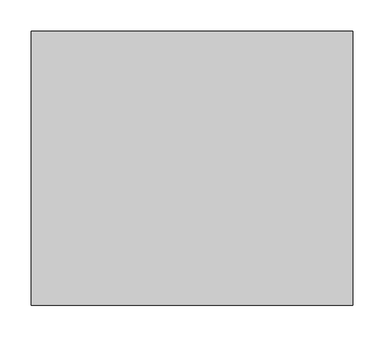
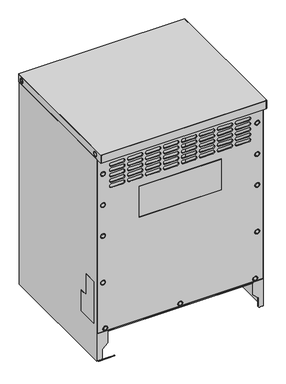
"""IFC4 building model written with IfcOpenShell, lengths in millimetres: proxy geometry, TRF2 - 480V-208Vor 120V_ Step_down_transformer_BIM_Model : TRF2 - 480V-208Vor 120V_ Step_down_transformer_BIM_Model."""

from ifc_helpers import new_model, si_unit, point, frame, frame_2d, origin, place, context, project, spatial, polyline, circle_curve, trimmed, segment, composite_curve, outline, extrude, source, transform, mapped, element, save


def electrical_equipment_2ad6ca1a(model_context):
    return source(origin(), model_context, "Body", "SweptSolid", [
        extrude(outline(polyline([(215.1, 659.7274313), (215.1, 0.0), (-198.6272785, 0.0), (-198.6272785, 659.7274313), (215.1, 659.7274313)]), holes=[polyline([(-141.7764926, 249.9415628), (-183.1332785, 249.9415628), (-183.1332785, 113.919), (-115.1556994, 113.919), (-115.1556994, 182.118), (-141.7764926, 182.118), (-141.7764926, 249.9415628)])]), frame((-256.844617, 0.0, 0.0), z_axis=(1.0, 0.0, 0.0), x_axis=(0.0, 1.0, 0.0)), (0.0, 0.0, 1.0), 2.044617),
        extrude(outline(polyline([(-142.2764926, 249.4415628), (-142.2764926, 181.618), (-115.6556994, 181.618), (-115.6556994, 114.419), (-182.6332785, 114.419), (-182.6332785, 249.4415628), (-142.2764926, 249.4415628)])), frame((-256.844617, 0.0, 0.0), z_axis=(1.0, 0.0, 0.0), x_axis=(0.0, 1.0, 0.0)), (0.0, 0.0, 1.0), 2.044617),
        extrude(outline(polyline([(656.4186497, -254.8), (91.7316252, -254.8), (91.7316252, 254.8), (656.4186497, 254.8), (656.4186497, -254.8)]), holes=[composite_curve([segment(trimmed(circle_curve(frame_2d((606.0796506, 238.8897385)), 7.2389997), [point((606.0796506, 246.1287382))], [point((606.0796506, 231.6507387))], True, "CARTESIAN"), True, "CONTINUOUS"), segment(trimmed(circle_curve(frame_2d((606.0796506, 238.8897385)), 7.2389997), [point((606.0796506, 231.6507387))], [point((606.0796506, 246.1287382))], True, "CARTESIAN"), True, "CONTINUOUS")], self_intersect=False), composite_curve([segment(trimmed(circle_curve(frame_2d((504.4796528, 238.8897385)), 7.2389997), [point((504.4796528, 246.1287382))], [point((504.4796528, 231.6507387))], True, "CARTESIAN"), True, "CONTINUOUS"), segment(trimmed(circle_curve(frame_2d((504.4796528, 238.8897385)), 7.2389997), [point((504.4796528, 231.6507387))], [point((504.4796528, 246.1287382))], True, "CARTESIAN"), True, "CONTINUOUS")], self_intersect=False), composite_curve([segment(trimmed(circle_curve(frame_2d((402.8816252, 238.8897385)), 7.2389997), [point((402.8816252, 246.1287382))], [point((402.8816252, 231.6507387))], True, "CARTESIAN"), True, "CONTINUOUS"), segment(trimmed(circle_curve(frame_2d((402.8816252, 238.8897385)), 7.2389997), [point((402.8816252, 231.6507387))], [point((402.8816252, 246.1287382))], True, "CARTESIAN"), True, "CONTINUOUS")], self_intersect=False), composite_curve([segment(trimmed(circle_curve(frame_2d((250.4816252, 238.8897385)), 7.2389997), [point((250.4816252, 246.1287382))], [point((250.4816252, 231.6507387))], True, "CARTESIAN"), True, "CONTINUOUS"), segment(trimmed(circle_curve(frame_2d((250.4816252, 238.8897385)), 7.2389997), [point((250.4816252, 231.6507387))], [point((250.4816252, 246.1287382))], True, "CARTESIAN"), True, "CONTINUOUS")], self_intersect=False), composite_curve([segment(trimmed(circle_curve(frame_2d((99.2737842, 231.672699)), 7.2389997), [point((99.2737842, 238.9116987))], [point((99.2737842, 224.4336993))], True, "CARTESIAN"), True, "CONTINUOUS"), segment(trimmed(circle_curve(frame_2d((99.2737842, 231.672699)), 7.2389997), [point((99.2737842, 224.4336993))], [point((99.2737842, 238.9116987))], True, "CARTESIAN"), True, "CONTINUOUS")], self_intersect=False), composite_curve([segment(trimmed(circle_curve(frame_2d((99.2737842, -0.1229129)), 7.2389997), [point((99.2737842, 7.1160868))], [point((99.2737842, -7.3619126))], True, "CARTESIAN"), True, "CONTINUOUS"), segment(trimmed(circle_curve(frame_2d((99.2737842, -0.1229129)), 7.2389997), [point((99.2737842, -7.3619126))], [point((99.2737842, 7.1160868))], True, "CARTESIAN"), True, "CONTINUOUS")], self_intersect=False), composite_curve([segment(trimmed(circle_curve(frame_2d((99.2737842, -231.8513771)), 7.2389997), [point((99.2737842, -224.6123773))], [point((99.2737842, -239.0903768))], True, "CARTESIAN"), True, "CONTINUOUS"), segment(trimmed(circle_curve(frame_2d((99.2737842, -231.8513771)), 7.2389997), [point((99.2737842, -239.0903768))], [point((99.2737842, -224.6123773))], True, "CARTESIAN"), True, "CONTINUOUS")], self_intersect=False), composite_curve([segment(trimmed(circle_curve(frame_2d((606.0796506, -238.8897385)), 7.2389997), [point((606.0796506, -246.1287382))], [point((606.0796506, -231.6507387))], True, "CARTESIAN"), True, "CONTINUOUS"), segment(trimmed(circle_curve(frame_2d((606.0796506, -238.8897385)), 7.2389997), [point((606.0796506, -231.6507387))], [point((606.0796506, -246.1287382))], True, "CARTESIAN"), True, "CONTINUOUS")], self_intersect=False), composite_curve([segment(trimmed(circle_curve(frame_2d((504.4796528, -238.8897385)), 7.2389997), [point((504.4796528, -246.1287382))], [point((504.4796528, -231.6507387))], True, "CARTESIAN"), True, "CONTINUOUS"), segment(trimmed(circle_curve(frame_2d((504.4796528, -238.8897385)), 7.2389997), [point((504.4796528, -231.6507387))], [point((504.4796528, -246.1287382))], True, "CARTESIAN"), True, "CONTINUOUS")], self_intersect=False), composite_curve([segment(trimmed(circle_curve(frame_2d((402.8816252, -238.8897385)), 7.2389997), [point((402.8816252, -246.1287382))], [point((402.8816252, -231.6507387))], True, "CARTESIAN"), True, "CONTINUOUS"), segment(trimmed(circle_curve(frame_2d((402.8816252, -238.8897385)), 7.2389997), [point((402.8816252, -231.6507387))], [point((402.8816252, -246.1287382))], True, "CARTESIAN"), True, "CONTINUOUS")], self_intersect=False), composite_curve([segment(trimmed(circle_curve(frame_2d((250.4816252, -238.8897385)), 7.2389997), [point((250.4816252, -246.1287382))], [point((250.4816252, -231.6507387))], True, "CARTESIAN"), True, "CONTINUOUS"), segment(trimmed(circle_curve(frame_2d((250.4816252, -238.8897385)), 7.2389997), [point((250.4816252, -231.6507387))], [point((250.4816252, -246.1287382))], True, "CARTESIAN"), True, "CONTINUOUS")], self_intersect=False)]), frame((0.0, 215.1, 0.0), z_axis=(0.0, 1.0, 0.0), x_axis=(0.0, 0.0, 1.0)), (0.0, 0.0, 1.0), 3.0),
        extrude(outline(polyline([(608.8292787, 234.1272428), (603.3300224, 234.1272428), (600.5803942, 238.8897385), (603.3300224, 243.6522341), (608.8292787, 243.6522341), (611.5789069, 238.8897385), (608.8292787, 234.1272428)])), frame((0.0, 215.1, 0.0), z_axis=(0.0, 1.0, 0.0), x_axis=(0.0, 0.0, 1.0)), (0.0, 0.0, 1.0), 3.0),
        extrude(outline(polyline([(507.229281, 234.1272428), (501.7300246, 234.1272428), (498.9803964, 238.8897385), (501.7300246, 243.6522341), (507.229281, 243.6522341), (509.9789091, 238.8897385), (507.229281, 234.1272428)])), frame((0.0, 215.1, 0.0), z_axis=(0.0, 1.0, 0.0), x_axis=(0.0, 0.0, 1.0)), (0.0, 0.0, 1.0), 3.0),
        extrude(outline(polyline([(405.6312534, 234.1272428), (400.1319971, 234.1272428), (397.3823689, 238.8897385), (400.1319971, 243.6522341), (405.6312534, 243.6522341), (408.3808816, 238.8897385), (405.6312534, 234.1272428)])), frame((0.0, 215.1, 0.0), z_axis=(0.0, 1.0, 0.0), x_axis=(0.0, 0.0, 1.0)), (0.0, 0.0, 1.0), 3.0),
        extrude(outline(polyline([(253.2312534, 234.1272428), (247.7319971, 234.1272428), (244.9823689, 238.8897385), (247.7319971, 243.6522341), (253.2312534, 243.6522341), (255.9808816, 238.8897385), (253.2312534, 234.1272428)])), frame((0.0, 215.1, 0.0), z_axis=(0.0, 1.0, 0.0), x_axis=(0.0, 0.0, 1.0)), (0.0, 0.0, 1.0), 3.0),
        extrude(outline(polyline([(101.904067, 226.703491), (96.6435015, 226.703491), (93.7745279, 231.672699), (96.524156, 236.4351947), (102.0234124, 236.4351947), (104.7730406, 231.672699), (101.904067, 226.703491)])), frame((0.0, 215.1, 0.0), z_axis=(0.0, 1.0, 0.0), x_axis=(0.0, 0.0, 1.0)), (0.0, 0.0, 1.0), 3.0),
        extrude(outline(polyline([(102.0234124, -4.8854086), (96.524156, -4.8854086), (93.7745279, -0.1229129), (96.524156, 4.6395828), (102.0234124, 4.6395828), (104.7730406, -0.1229129), (102.0234124, -4.8854086)])), frame((0.0, 215.1, 0.0), z_axis=(0.0, 1.0, 0.0), x_axis=(0.0, 0.0, 1.0)), (0.0, 0.0, 1.0), 3.0),
        extrude(outline(polyline([(102.0234124, -236.6138727), (96.524156, -236.6138727), (93.7745279, -231.8513771), (96.524156, -227.0888814), (102.0234124, -227.0888814), (104.7730406, -231.8513771), (102.0234124, -236.6138727)])), frame((0.0, 215.1, 0.0), z_axis=(0.0, 1.0, 0.0), x_axis=(0.0, 0.0, 1.0)), (0.0, 0.0, 1.0), 3.0),
        extrude(outline(polyline([(608.8292787, -234.1272428), (611.5789069, -238.8897385), (608.8292787, -243.6522341), (603.3300224, -243.6522341), (600.5803942, -238.8897385), (603.3300224, -234.1272428), (608.8292787, -234.1272428)])), frame((0.0, 215.1, 0.0), z_axis=(0.0, 1.0, 0.0), x_axis=(0.0, 0.0, 1.0)), (0.0, 0.0, 1.0), 3.0),
        extrude(outline(polyline([(507.229281, -234.1272428), (509.9789091, -238.8897385), (507.229281, -243.6522341), (501.7300246, -243.6522341), (498.9803964, -238.8897385), (501.7300246, -234.1272428), (507.229281, -234.1272428)])), frame((0.0, 215.1, 0.0), z_axis=(0.0, 1.0, 0.0), x_axis=(0.0, 0.0, 1.0)), (0.0, 0.0, 1.0), 3.0),
        extrude(outline(polyline([(405.6312534, -234.1272428), (408.3808816, -238.8897385), (405.6312534, -243.6522341), (400.1319971, -243.6522341), (397.3823689, -238.8897385), (400.1319971, -234.1272428), (405.6312534, -234.1272428)])), frame((0.0, 215.1, 0.0), z_axis=(0.0, 1.0, 0.0), x_axis=(0.0, 0.0, 1.0)), (0.0, 0.0, 1.0), 3.0),
        extrude(outline(polyline([(253.2312534, -234.1272428), (255.9808816, -238.8897385), (253.2312534, -243.6522341), (247.7319971, -243.6522341), (244.9823689, -238.8897385), (247.7319971, -234.1272428), (253.2312534, -234.1272428)])), frame((0.0, 215.1, 0.0), z_axis=(0.0, 1.0, 0.0), x_axis=(0.0, 0.0, 1.0)), (0.0, 0.0, 1.0), 3.0),
        extrude(outline(polyline([(256.844617, 218.919523), (256.844617, -219.080477), (-256.844617, -219.080477), (-256.844617, 218.919523), (256.844617, 218.919523)])), frame((0.0, 0.0, 683.6767855), z_axis=(0.0, 0.0, 1.0), x_axis=(1.0, 0.0, 0.0)), (0.0, 0.0, 1.0), 1.3232145),
        extrude(outline(polyline([(254.8, -219.080477), (-254.8, -219.080477), (-254.8, -218.1325973), (254.8, -218.1325973), (254.8, -219.080477)])), frame((0.0, 0.0, 657.3896252), z_axis=(0.0, 0.0, 1.0), x_axis=(1.0, 0.0, 0.0)), (0.0, 0.0, 1.0), 26.2871603),
        extrude(outline(polyline([(219.080477, 683.8552069), (219.080477, 658.0609045), (-219.080477, 658.0609045), (-219.080477, 683.8552069), (219.080477, 683.8552069)]), holes=[composite_curve([segment(trimmed(circle_curve(frame_2d((-190.1817744, 670.8123696)), 7.2409723), [point((-197.4227467, 670.8123696))], [point((-182.9408021, 670.8123696))], True, "CARTESIAN"), True, "CONTINUOUS"), segment(trimmed(circle_curve(frame_2d((-190.1817744, 670.8123696)), 7.2409723), [point((-182.9408021, 670.8123696))], [point((-197.4227467, 670.8123696))], True, "CARTESIAN"), True, "CONTINUOUS")], self_intersect=False), composite_curve([segment(trimmed(circle_curve(frame_2d((203.5256798, 670.8123696)), 7.2409723), [point((196.2847075, 670.8123696))], [point((210.7666521, 670.8123696))], True, "CARTESIAN"), True, "CONTINUOUS"), segment(trimmed(circle_curve(frame_2d((203.5256798, 670.8123696)), 7.2409723), [point((210.7666521, 670.8123696))], [point((196.2847075, 670.8123696))], True, "CARTESIAN"), True, "CONTINUOUS")], self_intersect=False)]), frame((-256.844617, 0.0, 0.0), z_axis=(1.0, 0.0, 0.0), x_axis=(0.0, 1.0, 0.0)), (0.0, 0.0, 1.0), 2.044617),
        extrude(outline(polyline([(-194.9442742, 673.5619954), (-190.1817826, 676.3116213), (-185.419291, 673.5619954), (-185.419291, 668.0627438), (-190.1817826, 665.313118), (-194.9442742, 668.0627438), (-194.9442742, 673.5619954)])), frame((-256.844617, 0.0, 0.0), z_axis=(1.0, 0.0, 0.0), x_axis=(0.0, 1.0, 0.0)), (0.0, 0.0, 1.0), 2.044617),
        extrude(outline(polyline([(198.7631801, 673.5619954), (203.5256717, 676.3116213), (208.2881633, 673.5619954), (208.2881633, 668.0627438), (203.5256717, 665.313118), (198.7631801, 668.0627438), (198.7631801, 673.5619954)])), frame((-256.844617, 0.0, 0.0), z_axis=(1.0, 0.0, 0.0), x_axis=(0.0, 1.0, 0.0)), (0.0, 0.0, 1.0), 2.044617),
        extrude(outline(polyline([(215.1, 683.8552069), (215.1, 658.0609045), (-219.080477, 658.0609045), (-219.080477, 683.8552069), (215.1, 683.8552069)]), holes=[composite_curve([segment(trimmed(circle_curve(frame_2d((-190.1817744, 670.8123696)), 7.2409723), [point((-197.4227467, 670.8123696))], [point((-182.9408021, 670.8123696))], True, "CARTESIAN"), True, "CONTINUOUS"), segment(trimmed(circle_curve(frame_2d((-190.1817744, 670.8123696)), 7.2409723), [point((-182.9408021, 670.8123696))], [point((-197.4227467, 670.8123696))], True, "CARTESIAN"), True, "CONTINUOUS")], self_intersect=False), composite_curve([segment(trimmed(circle_curve(frame_2d((203.5256798, 670.8123696)), 7.2409723), [point((196.2847075, 670.8123696))], [point((210.7666521, 670.8123696))], True, "CARTESIAN"), True, "CONTINUOUS"), segment(trimmed(circle_curve(frame_2d((203.5256798, 670.8123696)), 7.2409723), [point((210.7666521, 670.8123696))], [point((196.2847075, 670.8123696))], True, "CARTESIAN"), True, "CONTINUOUS")], self_intersect=False)]), frame((254.8, 0.0, 0.0), z_axis=(1.0, 0.0, 0.0), x_axis=(0.0, 1.0, 0.0)), (0.0, 0.0, 1.0), 2.044617),
        extrude(outline(polyline([(-194.9442742, 673.5619954), (-190.1817826, 676.3116213), (-185.419291, 673.5619954), (-185.419291, 668.0627438), (-190.1817826, 665.313118), (-194.9442742, 668.0627438), (-194.9442742, 673.5619954)])), frame((254.8, 0.0, 0.0), z_axis=(1.0, 0.0, 0.0), x_axis=(0.0, 1.0, 0.0)), (0.0, 0.0, 1.0), 2.044617),
        extrude(outline(polyline([(198.7631801, 673.5619954), (203.5256717, 676.3116213), (208.2881633, 673.5619954), (208.2881633, 668.0627438), (203.5256717, 665.313118), (198.7631801, 668.0627438), (198.7631801, 673.5619954)])), frame((254.8, 0.0, 0.0), z_axis=(1.0, 0.0, 0.0), x_axis=(0.0, 1.0, 0.0)), (0.0, 0.0, 1.0), 2.044617),
        extrude(outline(polyline([(211.9637215, 659.7274313), (211.9637215, 0.0), (-198.6272785, 0.0), (-198.6272785, 659.7274313), (211.9637215, 659.7274313)]), holes=[polyline([(-141.7764926, 249.9415628), (-183.1332785, 249.9415628), (-183.1332785, 113.919), (-115.1556994, 113.919), (-115.1556994, 182.118), (-141.7764926, 182.118), (-141.7764926, 249.9415628)])]), frame((254.8, 0.0, 0.0), z_axis=(1.0, 0.0, 0.0), x_axis=(0.0, 1.0, 0.0)), (0.0, 0.0, 1.0), 2.044617),
        extrude(outline(polyline([(-182.6332785, 114.419), (-182.6332785, 249.4415628), (-142.2764926, 249.4415628), (-142.2764926, 181.618), (-115.6556994, 181.618), (-115.6556994, 114.419), (-182.6332785, 114.419)])), frame((254.8, 0.0, 0.0), z_axis=(1.0, 0.0, 0.0), x_axis=(0.0, 1.0, 0.0)), (0.0, 0.0, 1.0), 2.044617),
        extrude(outline(polyline([(657.3896252, 254.8), (657.3896252, -254.8), (91.7316252, -254.8), (91.7316252, 254.8), (657.3896252, 254.8)]), holes=[composite_curve([segment(trimmed(circle_curve(frame_2d((628.1796252, -176.8983)), 5.5499), [point((633.7295252, -176.8983))], [point((622.6297252, -176.8983))], True, "CARTESIAN"), True, "CONTINUOUS"), segment(polyline([(622.6297252, -176.8983), (622.6297252, -212.6107)]), True, "CONTINUOUS"), segment(trimmed(circle_curve(frame_2d((628.1796252, -212.6107)), 5.5499), [point((622.6297252, -212.6107))], [point((633.7295252, -212.6107))], True, "CARTESIAN"), True, "CONTINUOUS"), segment(polyline([(633.7295252, -212.6107), (633.7295252, -176.8983)]), True, "CONTINUOUS")], self_intersect=False), composite_curve([segment(trimmed(circle_curve(frame_2d((628.1796252, -121.3993)), 5.5499), [point((633.7295252, -121.3993))], [point((622.6297252, -121.3993))], True, "CARTESIAN"), True, "CONTINUOUS"), segment(polyline([(622.6297252, -121.3993), (622.6297252, -157.1117)]), True, "CONTINUOUS"), segment(trimmed(circle_curve(frame_2d((628.1796252, -157.1117)), 5.5499), [point((622.6297252, -157.1117))], [point((633.7295252, -157.1117))], True, "CARTESIAN"), True, "CONTINUOUS"), segment(polyline([(633.7295252, -157.1117), (633.7295252, -121.3993)]), True, "CONTINUOUS")], self_intersect=False), composite_curve([segment(trimmed(circle_curve(frame_2d((610.7298252, -176.8983)), 5.5499), [point((616.2797252, -176.8983))], [point((605.1799252, -176.8983))], True, "CARTESIAN"), True, "CONTINUOUS"), segment(polyline([(605.1799252, -176.8983), (605.1799252, -212.6107)]), True, "CONTINUOUS"), segment(trimmed(circle_curve(frame_2d((610.7298252, -212.6107)), 5.5499), [point((605.1799252, -212.6107))], [point((616.2797252, -212.6107))], True, "CARTESIAN"), True, "CONTINUOUS"), segment(polyline([(616.2797252, -212.6107), (616.2797252, -176.8983)]), True, "CONTINUOUS")], self_intersect=False), composite_curve([segment(trimmed(circle_curve(frame_2d((610.7298252, -121.3993)), 5.5499), [point((616.2797252, -121.3993))], [point((605.1799252, -121.3993))], True, "CARTESIAN"), True, "CONTINUOUS"), segment(polyline([(605.1799252, -121.3993), (605.1799252, -157.1117)]), True, "CONTINUOUS"), segment(trimmed(circle_curve(frame_2d((610.7298252, -157.1117)), 5.5499), [point((605.1799252, -157.1117))], [point((616.2797252, -157.1117))], True, "CARTESIAN"), True, "CONTINUOUS"), segment(polyline([(616.2797252, -157.1117), (616.2797252, -121.3993)]), True, "CONTINUOUS")], self_intersect=False), composite_curve([segment(trimmed(circle_curve(frame_2d((593.2800252, -176.8983)), 5.5499), [point((598.8299252, -176.8983))], [point((587.7301252, -176.8983))], True, "CARTESIAN"), True, "CONTINUOUS"), segment(polyline([(587.7301252, -176.8983), (587.7301252, -212.6107)]), True, "CONTINUOUS"), segment(trimmed(circle_curve(frame_2d((593.2800252, -212.6107)), 5.5499), [point((587.7301252, -212.6107))], [point((598.8299252, -212.6107))], True, "CARTESIAN"), True, "CONTINUOUS"), segment(polyline([(598.8299252, -212.6107), (598.8299252, -176.8983)]), True, "CONTINUOUS")], self_intersect=False), composite_curve([segment(trimmed(circle_curve(frame_2d((593.2800252, -121.3993)), 5.5499), [point((598.8299252, -121.3993))], [point((587.7301252, -121.3993))], True, "CARTESIAN"), True, "CONTINUOUS"), segment(polyline([(587.7301252, -121.3993), (587.7301252, -157.1117)]), True, "CONTINUOUS"), segment(trimmed(circle_curve(frame_2d((593.2800252, -157.1117)), 5.5499), [point((587.7301252, -157.1117))], [point((598.8299252, -157.1117))], True, "CARTESIAN"), True, "CONTINUOUS"), segment(polyline([(598.8299252, -157.1117), (598.8299252, -121.3993)]), True, "CONTINUOUS")], self_intersect=False), composite_curve([segment(trimmed(circle_curve(frame_2d((575.8302252, -176.8983)), 5.5499), [point((581.3801252, -176.8983))], [point((570.2803252, -176.8983))], True, "CARTESIAN"), True, "CONTINUOUS"), segment(polyline([(570.2803252, -176.8983), (570.2803252, -212.6107)]), True, "CONTINUOUS"), segment(trimmed(circle_curve(frame_2d((575.8302252, -212.6107)), 5.5499), [point((570.2803252, -212.6107))], [point((581.3801252, -212.6107))], True, "CARTESIAN"), True, "CONTINUOUS"), segment(polyline([(581.3801252, -212.6107), (581.3801252, -176.8983)]), True, "CONTINUOUS")], self_intersect=False), composite_curve([segment(trimmed(circle_curve(frame_2d((575.8302252, -121.3993)), 5.5499), [point((581.3801252, -121.3993))], [point((570.2803252, -121.3993))], True, "CARTESIAN"), True, "CONTINUOUS"), segment(polyline([(570.2803252, -121.3993), (570.2803252, -157.1117)]), True, "CONTINUOUS"), segment(trimmed(circle_curve(frame_2d((575.8302252, -157.1117)), 5.5499), [point((570.2803252, -157.1117))], [point((581.3801252, -157.1117))], True, "CARTESIAN"), True, "CONTINUOUS"), segment(polyline([(581.3801252, -157.1117), (581.3801252, -121.3993)]), True, "CONTINUOUS")], self_intersect=False), composite_curve([segment(trimmed(circle_curve(frame_2d((558.3804252, -176.8983)), 5.5499), [point((563.9303252, -176.8983))], [point((552.8305252, -176.8983))], True, "CARTESIAN"), True, "CONTINUOUS"), segment(polyline([(552.8305252, -176.8983), (552.8305252, -212.6107)]), True, "CONTINUOUS"), segment(trimmed(circle_curve(frame_2d((558.3804252, -212.6107)), 5.5499), [point((552.8305252, -212.6107))], [point((563.9303252, -212.6107))], True, "CARTESIAN"), True, "CONTINUOUS"), segment(polyline([(563.9303252, -212.6107), (563.9303252, -176.8983)]), True, "CONTINUOUS")], self_intersect=False), composite_curve([segment(trimmed(circle_curve(frame_2d((558.3804252, -121.3993)), 5.5499), [point((563.9303252, -121.3993))], [point((552.8305252, -121.3993))], True, "CARTESIAN"), True, "CONTINUOUS"), segment(polyline([(552.8305252, -121.3993), (552.8305252, -157.1117)]), True, "CONTINUOUS"), segment(trimmed(circle_curve(frame_2d((558.3804252, -157.1117)), 5.5499), [point((552.8305252, -157.1117))], [point((563.9303252, -157.1117))], True, "CARTESIAN"), True, "CONTINUOUS"), segment(polyline([(563.9303252, -157.1117), (563.9303252, -121.3993)]), True, "CONTINUOUS")], self_intersect=False), composite_curve([segment(trimmed(circle_curve(frame_2d((628.1796252, -65.9003)), 5.5499), [point((633.7295252, -65.9003))], [point((622.6297252, -65.9003))], True, "CARTESIAN"), True, "CONTINUOUS"), segment(polyline([(622.6297252, -65.9003), (622.6297252, -101.6127)]), True, "CONTINUOUS"), segment(trimmed(circle_curve(frame_2d((628.1796252, -101.6127)), 5.5499), [point((622.6297252, -101.6127))], [point((633.7295252, -101.6127))], True, "CARTESIAN"), True, "CONTINUOUS"), segment(polyline([(633.7295252, -101.6127), (633.7295252, -65.9003)]), True, "CONTINUOUS")], self_intersect=False), composite_curve([segment(trimmed(circle_curve(frame_2d((628.1796252, -10.4013)), 5.5499), [point((633.7295252, -10.4013))], [point((622.6297252, -10.4013))], True, "CARTESIAN"), True, "CONTINUOUS"), segment(polyline([(622.6297252, -10.4013), (622.6297252, -46.1137)]), True, "CONTINUOUS"), segment(trimmed(circle_curve(frame_2d((628.1796252, -46.1137)), 5.5499), [point((622.6297252, -46.1137))], [point((633.7295252, -46.1137))], True, "CARTESIAN"), True, "CONTINUOUS"), segment(polyline([(633.7295252, -46.1137), (633.7295252, -10.4013)]), True, "CONTINUOUS")], self_intersect=False), composite_curve([segment(trimmed(circle_curve(frame_2d((610.7298252, -65.9003)), 5.5499), [point((616.2797252, -65.9003))], [point((605.1799252, -65.9003))], True, "CARTESIAN"), True, "CONTINUOUS"), segment(polyline([(605.1799252, -65.9003), (605.1799252, -101.6127)]), True, "CONTINUOUS"), segment(trimmed(circle_curve(frame_2d((610.7298252, -101.6127)), 5.5499), [point((605.1799252, -101.6127))], [point((616.2797252, -101.6127))], True, "CARTESIAN"), True, "CONTINUOUS"), segment(polyline([(616.2797252, -101.6127), (616.2797252, -65.9003)]), True, "CONTINUOUS")], self_intersect=False), composite_curve([segment(trimmed(circle_curve(frame_2d((610.7298252, -10.4013)), 5.5499), [point((616.2797252, -10.4013))], [point((605.1799252, -10.4013))], True, "CARTESIAN"), True, "CONTINUOUS"), segment(polyline([(605.1799252, -10.4013), (605.1799252, -46.1137)]), True, "CONTINUOUS"), segment(trimmed(circle_curve(frame_2d((610.7298252, -46.1137)), 5.5499), [point((605.1799252, -46.1137))], [point((616.2797252, -46.1137))], True, "CARTESIAN"), True, "CONTINUOUS"), segment(polyline([(616.2797252, -46.1137), (616.2797252, -10.4013)]), True, "CONTINUOUS")], self_intersect=False), composite_curve([segment(trimmed(circle_curve(frame_2d((593.2800252, -65.9003)), 5.5499), [point((598.8299252, -65.9003))], [point((587.7301252, -65.9003))], True, "CARTESIAN"), True, "CONTINUOUS"), segment(polyline([(587.7301252, -65.9003), (587.7301252, -101.6127)]), True, "CONTINUOUS"), segment(trimmed(circle_curve(frame_2d((593.2800252, -101.6127)), 5.5499), [point((587.7301252, -101.6127))], [point((598.8299252, -101.6127))], True, "CARTESIAN"), True, "CONTINUOUS"), segment(polyline([(598.8299252, -101.6127), (598.8299252, -65.9003)]), True, "CONTINUOUS")], self_intersect=False), composite_curve([segment(trimmed(circle_curve(frame_2d((593.2800252, -10.4013)), 5.5499), [point((598.8299252, -10.4013))], [point((587.7301252, -10.4013))], True, "CARTESIAN"), True, "CONTINUOUS"), segment(polyline([(587.7301252, -10.4013), (587.7301252, -46.1137)]), True, "CONTINUOUS"), segment(trimmed(circle_curve(frame_2d((593.2800252, -46.1137)), 5.5499), [point((587.7301252, -46.1137))], [point((598.8299252, -46.1137))], True, "CARTESIAN"), True, "CONTINUOUS"), segment(polyline([(598.8299252, -46.1137), (598.8299252, -10.4013)]), True, "CONTINUOUS")], self_intersect=False), composite_curve([segment(trimmed(circle_curve(frame_2d((575.8302252, -65.9003)), 5.5499), [point((581.3801252, -65.9003))], [point((570.2803252, -65.9003))], True, "CARTESIAN"), True, "CONTINUOUS"), segment(polyline([(570.2803252, -65.9003), (570.2803252, -101.6127)]), True, "CONTINUOUS"), segment(trimmed(circle_curve(frame_2d((575.8302252, -101.6127)), 5.5499), [point((570.2803252, -101.6127))], [point((581.3801252, -101.6127))], True, "CARTESIAN"), True, "CONTINUOUS"), segment(polyline([(581.3801252, -101.6127), (581.3801252, -65.9003)]), True, "CONTINUOUS")], self_intersect=False), composite_curve([segment(trimmed(circle_curve(frame_2d((575.8302252, -10.4013)), 5.5499), [point((581.3801252, -10.4013))], [point((570.2803252, -10.4013))], True, "CARTESIAN"), True, "CONTINUOUS"), segment(polyline([(570.2803252, -10.4013), (570.2803252, -46.1137)]), True, "CONTINUOUS"), segment(trimmed(circle_curve(frame_2d((575.8302252, -46.1137)), 5.5499), [point((570.2803252, -46.1137))], [point((581.3801252, -46.1137))], True, "CARTESIAN"), True, "CONTINUOUS"), segment(polyline([(581.3801252, -46.1137), (581.3801252, -10.4013)]), True, "CONTINUOUS")], self_intersect=False), composite_curve([segment(trimmed(circle_curve(frame_2d((558.3804252, -65.9003)), 5.5499), [point((563.9303252, -65.9003))], [point((552.8305252, -65.9003))], True, "CARTESIAN"), True, "CONTINUOUS"), segment(polyline([(552.8305252, -65.9003), (552.8305252, -101.6127)]), True, "CONTINUOUS"), segment(trimmed(circle_curve(frame_2d((558.3804252, -101.6127)), 5.5499), [point((552.8305252, -101.6127))], [point((563.9303252, -101.6127))], True, "CARTESIAN"), True, "CONTINUOUS"), segment(polyline([(563.9303252, -101.6127), (563.9303252, -65.9003)]), True, "CONTINUOUS")], self_intersect=False), composite_curve([segment(trimmed(circle_curve(frame_2d((558.3804252, -10.4013)), 5.5499), [point((563.9303252, -10.4013))], [point((552.8305252, -10.4013))], True, "CARTESIAN"), True, "CONTINUOUS"), segment(polyline([(552.8305252, -10.4013), (552.8305252, -46.1137)]), True, "CONTINUOUS"), segment(trimmed(circle_curve(frame_2d((558.3804252, -46.1137)), 5.5499), [point((552.8305252, -46.1137))], [point((563.9303252, -46.1137))], True, "CARTESIAN"), True, "CONTINUOUS"), segment(polyline([(563.9303252, -46.1137), (563.9303252, -10.4013)]), True, "CONTINUOUS")], self_intersect=False), composite_curve([segment(trimmed(circle_curve(frame_2d((628.1796252, 45.0977)), 5.5499), [point((633.7295252, 45.0977))], [point((622.6297252, 45.0977))], True, "CARTESIAN"), True, "CONTINUOUS"), segment(polyline([(622.6297252, 45.0977), (622.6297252, 9.3853)]), True, "CONTINUOUS"), segment(trimmed(circle_curve(frame_2d((628.1796252, 9.3853)), 5.5499), [point((622.6297252, 9.3853))], [point((633.7295252, 9.3853))], True, "CARTESIAN"), True, "CONTINUOUS"), segment(polyline([(633.7295252, 9.3853), (633.7295252, 45.0977)]), True, "CONTINUOUS")], self_intersect=False), composite_curve([segment(trimmed(circle_curve(frame_2d((628.1796252, 100.5967)), 5.5499), [point((633.7295252, 100.5967))], [point((622.6297252, 100.5967))], True, "CARTESIAN"), True, "CONTINUOUS"), segment(polyline([(622.6297252, 100.5967), (622.6297252, 64.8843)]), True, "CONTINUOUS"), segment(trimmed(circle_curve(frame_2d((628.1796252, 64.8843)), 5.5499), [point((622.6297252, 64.8843))], [point((633.7295252, 64.8843))], True, "CARTESIAN"), True, "CONTINUOUS"), segment(polyline([(633.7295252, 64.8843), (633.7295252, 100.5967)]), True, "CONTINUOUS")], self_intersect=False), composite_curve([segment(trimmed(circle_curve(frame_2d((610.7298252, 45.0977)), 5.5499), [point((616.2797252, 45.0977))], [point((605.1799252, 45.0977))], True, "CARTESIAN"), True, "CONTINUOUS"), segment(polyline([(605.1799252, 45.0977), (605.1799252, 9.3853)]), True, "CONTINUOUS"), segment(trimmed(circle_curve(frame_2d((610.7298252, 9.3853)), 5.5499), [point((605.1799252, 9.3853))], [point((616.2797252, 9.3853))], True, "CARTESIAN"), True, "CONTINUOUS"), segment(polyline([(616.2797252, 9.3853), (616.2797252, 45.0977)]), True, "CONTINUOUS")], self_intersect=False), composite_curve([segment(trimmed(circle_curve(frame_2d((610.7298252, 100.5967)), 5.5499), [point((616.2797252, 100.5967))], [point((605.1799252, 100.5967))], True, "CARTESIAN"), True, "CONTINUOUS"), segment(polyline([(605.1799252, 100.5967), (605.1799252, 64.8843)]), True, "CONTINUOUS"), segment(trimmed(circle_curve(frame_2d((610.7298252, 64.8843)), 5.5499), [point((605.1799252, 64.8843))], [point((616.2797252, 64.8843))], True, "CARTESIAN"), True, "CONTINUOUS"), segment(polyline([(616.2797252, 64.8843), (616.2797252, 100.5967)]), True, "CONTINUOUS")], self_intersect=False), composite_curve([segment(trimmed(circle_curve(frame_2d((593.2800252, 45.0977)), 5.5499), [point((598.8299252, 45.0977))], [point((587.7301252, 45.0977))], True, "CARTESIAN"), True, "CONTINUOUS"), segment(polyline([(587.7301252, 45.0977), (587.7301252, 9.3853)]), True, "CONTINUOUS"), segment(trimmed(circle_curve(frame_2d((593.2800252, 9.3853)), 5.5499), [point((587.7301252, 9.3853))], [point((598.8299252, 9.3853))], True, "CARTESIAN"), True, "CONTINUOUS"), segment(polyline([(598.8299252, 9.3853), (598.8299252, 45.0977)]), True, "CONTINUOUS")], self_intersect=False), composite_curve([segment(trimmed(circle_curve(frame_2d((593.2800252, 100.5967)), 5.5499), [point((598.8299252, 100.5967))], [point((587.7301252, 100.5967))], True, "CARTESIAN"), True, "CONTINUOUS"), segment(polyline([(587.7301252, 100.5967), (587.7301252, 64.8843)]), True, "CONTINUOUS"), segment(trimmed(circle_curve(frame_2d((593.2800252, 64.8843)), 5.5499), [point((587.7301252, 64.8843))], [point((598.8299252, 64.8843))], True, "CARTESIAN"), True, "CONTINUOUS"), segment(polyline([(598.8299252, 64.8843), (598.8299252, 100.5967)]), True, "CONTINUOUS")], self_intersect=False), composite_curve([segment(trimmed(circle_curve(frame_2d((575.8302252, 45.0977)), 5.5499), [point((581.3801252, 45.0977))], [point((570.2803252, 45.0977))], True, "CARTESIAN"), True, "CONTINUOUS"), segment(polyline([(570.2803252, 45.0977), (570.2803252, 9.3853)]), True, "CONTINUOUS"), segment(trimmed(circle_curve(frame_2d((575.8302252, 9.3853)), 5.5499), [point((570.2803252, 9.3853))], [point((581.3801252, 9.3853))], True, "CARTESIAN"), True, "CONTINUOUS"), segment(polyline([(581.3801252, 9.3853), (581.3801252, 45.0977)]), True, "CONTINUOUS")], self_intersect=False), composite_curve([segment(trimmed(circle_curve(frame_2d((575.8302252, 100.5967)), 5.5499), [point((581.3801252, 100.5967))], [point((570.2803252, 100.5967))], True, "CARTESIAN"), True, "CONTINUOUS"), segment(polyline([(570.2803252, 100.5967), (570.2803252, 64.8843)]), True, "CONTINUOUS"), segment(trimmed(circle_curve(frame_2d((575.8302252, 64.8843)), 5.5499), [point((570.2803252, 64.8843))], [point((581.3801252, 64.8843))], True, "CARTESIAN"), True, "CONTINUOUS"), segment(polyline([(581.3801252, 64.8843), (581.3801252, 100.5967)]), True, "CONTINUOUS")], self_intersect=False), composite_curve([segment(trimmed(circle_curve(frame_2d((558.3804252, 45.0977)), 5.5499), [point((563.9303252, 45.0977))], [point((552.8305252, 45.0977))], True, "CARTESIAN"), True, "CONTINUOUS"), segment(polyline([(552.8305252, 45.0977), (552.8305252, 9.3853)]), True, "CONTINUOUS"), segment(trimmed(circle_curve(frame_2d((558.3804252, 9.3853)), 5.5499), [point((552.8305252, 9.3853))], [point((563.9303252, 9.3853))], True, "CARTESIAN"), True, "CONTINUOUS"), segment(polyline([(563.9303252, 9.3853), (563.9303252, 45.0977)]), True, "CONTINUOUS")], self_intersect=False), composite_curve([segment(trimmed(circle_curve(frame_2d((558.3804252, 100.5967)), 5.5499), [point((563.9303252, 100.5967))], [point((552.8305252, 100.5967))], True, "CARTESIAN"), True, "CONTINUOUS"), segment(polyline([(552.8305252, 100.5967), (552.8305252, 64.8843)]), True, "CONTINUOUS"), segment(trimmed(circle_curve(frame_2d((558.3804252, 64.8843)), 5.5499), [point((552.8305252, 64.8843))], [point((563.9303252, 64.8843))], True, "CARTESIAN"), True, "CONTINUOUS"), segment(polyline([(563.9303252, 64.8843), (563.9303252, 100.5967)]), True, "CONTINUOUS")], self_intersect=False), composite_curve([segment(trimmed(circle_curve(frame_2d((628.1796252, 156.0957)), 5.5499), [point((633.7295252, 156.0957))], [point((622.6297252, 156.0957))], True, "CARTESIAN"), True, "CONTINUOUS"), segment(polyline([(622.6297252, 156.0957), (622.6297252, 120.3833)]), True, "CONTINUOUS"), segment(trimmed(circle_curve(frame_2d((628.1796252, 120.3833)), 5.5499), [point((622.6297252, 120.3833))], [point((633.7295252, 120.3833))], True, "CARTESIAN"), True, "CONTINUOUS"), segment(polyline([(633.7295252, 120.3833), (633.7295252, 156.0957)]), True, "CONTINUOUS")], self_intersect=False), composite_curve([segment(trimmed(circle_curve(frame_2d((628.1796252, 211.5947)), 5.5499), [point((633.7295252, 211.5947))], [point((622.6297252, 211.5947))], True, "CARTESIAN"), True, "CONTINUOUS"), segment(polyline([(622.6297252, 211.5947), (622.6297252, 175.8823)]), True, "CONTINUOUS"), segment(trimmed(circle_curve(frame_2d((628.1796252, 175.8823)), 5.5499), [point((622.6297252, 175.8823))], [point((633.7295252, 175.8823))], True, "CARTESIAN"), True, "CONTINUOUS"), segment(polyline([(633.7295252, 175.8823), (633.7295252, 211.5947)]), True, "CONTINUOUS")], self_intersect=False), composite_curve([segment(trimmed(circle_curve(frame_2d((610.7298252, 156.0957)), 5.5499), [point((616.2797252, 156.0957))], [point((605.1799252, 156.0957))], True, "CARTESIAN"), True, "CONTINUOUS"), segment(polyline([(605.1799252, 156.0957), (605.1799252, 120.3833)]), True, "CONTINUOUS"), segment(trimmed(circle_curve(frame_2d((610.7298252, 120.3833)), 5.5499), [point((605.1799252, 120.3833))], [point((616.2797252, 120.3833))], True, "CARTESIAN"), True, "CONTINUOUS"), segment(polyline([(616.2797252, 120.3833), (616.2797252, 156.0957)]), True, "CONTINUOUS")], self_intersect=False), composite_curve([segment(trimmed(circle_curve(frame_2d((610.7298252, 211.5947)), 5.5499), [point((616.2797252, 211.5947))], [point((605.1799252, 211.5947))], True, "CARTESIAN"), True, "CONTINUOUS"), segment(polyline([(605.1799252, 211.5947), (605.1799252, 175.8823)]), True, "CONTINUOUS"), segment(trimmed(circle_curve(frame_2d((610.7298252, 175.8823)), 5.5499), [point((605.1799252, 175.8823))], [point((616.2797252, 175.8823))], True, "CARTESIAN"), True, "CONTINUOUS"), segment(polyline([(616.2797252, 175.8823), (616.2797252, 211.5947)]), True, "CONTINUOUS")], self_intersect=False), composite_curve([segment(trimmed(circle_curve(frame_2d((593.2800252, 156.0957)), 5.5499), [point((598.8299252, 156.0957))], [point((587.7301252, 156.0957))], True, "CARTESIAN"), True, "CONTINUOUS"), segment(polyline([(587.7301252, 156.0957), (587.7301252, 120.3833)]), True, "CONTINUOUS"), segment(trimmed(circle_curve(frame_2d((593.2800252, 120.3833)), 5.5499), [point((587.7301252, 120.3833))], [point((598.8299252, 120.3833))], True, "CARTESIAN"), True, "CONTINUOUS"), segment(polyline([(598.8299252, 120.3833), (598.8299252, 156.0957)]), True, "CONTINUOUS")], self_intersect=False), composite_curve([segment(trimmed(circle_curve(frame_2d((593.2800252, 211.5947)), 5.5499), [point((598.8299252, 211.5947))], [point((587.7301252, 211.5947))], True, "CARTESIAN"), True, "CONTINUOUS"), segment(polyline([(587.7301252, 211.5947), (587.7301252, 175.8823)]), True, "CONTINUOUS"), segment(trimmed(circle_curve(frame_2d((593.2800252, 175.8823)), 5.5499), [point((587.7301252, 175.8823))], [point((598.8299252, 175.8823))], True, "CARTESIAN"), True, "CONTINUOUS"), segment(polyline([(598.8299252, 175.8823), (598.8299252, 211.5947)]), True, "CONTINUOUS")], self_intersect=False), composite_curve([segment(trimmed(circle_curve(frame_2d((575.8302252, 156.0957)), 5.5499), [point((581.3801252, 156.0957))], [point((570.2803252, 156.0957))], True, "CARTESIAN"), True, "CONTINUOUS"), segment(polyline([(570.2803252, 156.0957), (570.2803252, 120.3833)]), True, "CONTINUOUS"), segment(trimmed(circle_curve(frame_2d((575.8302252, 120.3833)), 5.5499), [point((570.2803252, 120.3833))], [point((581.3801252, 120.3833))], True, "CARTESIAN"), True, "CONTINUOUS"), segment(polyline([(581.3801252, 120.3833), (581.3801252, 156.0957)]), True, "CONTINUOUS")], self_intersect=False), composite_curve([segment(trimmed(circle_curve(frame_2d((575.8302252, 211.5947)), 5.5499), [point((581.3801252, 211.5947))], [point((570.2803252, 211.5947))], True, "CARTESIAN"), True, "CONTINUOUS"), segment(polyline([(570.2803252, 211.5947), (570.2803252, 175.8823)]), True, "CONTINUOUS"), segment(trimmed(circle_curve(frame_2d((575.8302252, 175.8823)), 5.5499), [point((570.2803252, 175.8823))], [point((581.3801252, 175.8823))], True, "CARTESIAN"), True, "CONTINUOUS"), segment(polyline([(581.3801252, 175.8823), (581.3801252, 211.5947)]), True, "CONTINUOUS")], self_intersect=False), composite_curve([segment(trimmed(circle_curve(frame_2d((558.3804252, 156.0957)), 5.5499), [point((563.9303252, 156.0957))], [point((552.8305252, 156.0957))], True, "CARTESIAN"), True, "CONTINUOUS"), segment(polyline([(552.8305252, 156.0957), (552.8305252, 120.3833)]), True, "CONTINUOUS"), segment(trimmed(circle_curve(frame_2d((558.3804252, 120.3833)), 5.5499), [point((552.8305252, 120.3833))], [point((563.9303252, 120.3833))], True, "CARTESIAN"), True, "CONTINUOUS"), segment(polyline([(563.9303252, 120.3833), (563.9303252, 156.0957)]), True, "CONTINUOUS")], self_intersect=False), composite_curve([segment(trimmed(circle_curve(frame_2d((558.3804252, 211.5947)), 5.5499), [point((563.9303252, 211.5947))], [point((552.8305252, 211.5947))], True, "CARTESIAN"), True, "CONTINUOUS"), segment(polyline([(552.8305252, 211.5947), (552.8305252, 175.8823)]), True, "CONTINUOUS"), segment(trimmed(circle_curve(frame_2d((558.3804252, 175.8823)), 5.5499), [point((552.8305252, 175.8823))], [point((563.9303252, 175.8823))], True, "CARTESIAN"), True, "CONTINUOUS"), segment(polyline([(563.9303252, 175.8823), (563.9303252, 211.5947)]), True, "CONTINUOUS")], self_intersect=False), polyline([(527.4305252, 126.619), (425.8305252, 126.619), (425.8305252, -127.381), (527.4305252, -127.381), (527.4305252, 126.619)]), composite_curve([segment(trimmed(circle_curve(frame_2d((606.0796506, -238.633)), 7.2389997), [point((606.0796506, -245.8719997))], [point((606.0796506, -231.3940003))], True, "CARTESIAN"), True, "CONTINUOUS"), segment(trimmed(circle_curve(frame_2d((606.0796506, -238.633)), 7.2389997), [point((606.0796506, -231.3940003))], [point((606.0796506, -245.8719997))], True, "CARTESIAN"), True, "CONTINUOUS")], self_intersect=False), composite_curve([segment(trimmed(circle_curve(frame_2d((503.9342709, -238.633)), 7.2389997), [point((503.9342709, -245.8719997))], [point((503.9342709, -231.3940003))], True, "CARTESIAN"), True, "CONTINUOUS"), segment(trimmed(circle_curve(frame_2d((503.9342709, -238.633)), 7.2389997), [point((503.9342709, -231.3940003))], [point((503.9342709, -245.8719997))], True, "CARTESIAN"), True, "CONTINUOUS")], self_intersect=False), composite_curve([segment(trimmed(circle_curve(frame_2d((403.2272233, -238.633)), 7.2389997), [point((403.2272233, -245.8719997))], [point((403.2272233, -231.3940003))], True, "CARTESIAN"), True, "CONTINUOUS"), segment(trimmed(circle_curve(frame_2d((403.2272233, -238.633)), 7.2389997), [point((403.2272233, -231.3940003))], [point((403.2272233, -245.8719997))], True, "CARTESIAN"), True, "CONTINUOUS")], self_intersect=False), composite_curve([segment(trimmed(circle_curve(frame_2d((250.7138031, -238.633)), 7.2389997), [point((250.7138031, -245.8719997))], [point((250.7138031, -231.3940003))], True, "CARTESIAN"), True, "CONTINUOUS"), segment(trimmed(circle_curve(frame_2d((250.7138031, -238.633)), 7.2389997), [point((250.7138031, -231.3940003))], [point((250.7138031, -245.8719997))], True, "CARTESIAN"), True, "CONTINUOUS")], self_intersect=False), composite_curve([segment(trimmed(circle_curve(frame_2d((99.2737842, -231.8513771)), 7.2389997), [point((99.2737842, -239.0903768))], [point((99.2737842, -224.6123773))], True, "CARTESIAN"), True, "CONTINUOUS"), segment(trimmed(circle_curve(frame_2d((99.2737842, -231.8513771)), 7.2389997), [point((99.2737842, -224.6123773))], [point((99.2737842, -239.0903768))], True, "CARTESIAN"), True, "CONTINUOUS")], self_intersect=False), composite_curve([segment(trimmed(circle_curve(frame_2d((606.0796506, 237.9011728)), 7.2389997), [point((606.0796506, 230.6621731))], [point((606.0796506, 245.1401725))], True, "CARTESIAN"), True, "CONTINUOUS"), segment(trimmed(circle_curve(frame_2d((606.0796506, 237.9011728)), 7.2389997), [point((606.0796506, 245.1401725))], [point((606.0796506, 230.6621731))], True, "CARTESIAN"), True, "CONTINUOUS")], self_intersect=False), composite_curve([segment(trimmed(circle_curve(frame_2d((503.9342709, 237.9011728)), 7.2389997), [point((503.9342709, 230.6621731))], [point((503.9342709, 245.1401725))], True, "CARTESIAN"), True, "CONTINUOUS"), segment(trimmed(circle_curve(frame_2d((503.9342709, 237.9011728)), 7.2389997), [point((503.9342709, 245.1401725))], [point((503.9342709, 230.6621731))], True, "CARTESIAN"), True, "CONTINUOUS")], self_intersect=False), composite_curve([segment(trimmed(circle_curve(frame_2d((403.2272233, 237.9011728)), 7.2389997), [point((403.2272233, 230.6621731))], [point((403.2272233, 245.1401725))], True, "CARTESIAN"), True, "CONTINUOUS"), segment(trimmed(circle_curve(frame_2d((403.2272233, 237.9011728)), 7.2389997), [point((403.2272233, 245.1401725))], [point((403.2272233, 230.6621731))], True, "CARTESIAN"), True, "CONTINUOUS")], self_intersect=False), composite_curve([segment(trimmed(circle_curve(frame_2d((250.7138031, 237.9011728)), 7.2389997), [point((250.7138031, 230.6621731))], [point((250.7138031, 245.1401725))], True, "CARTESIAN"), True, "CONTINUOUS"), segment(trimmed(circle_curve(frame_2d((250.7138031, 237.9011728)), 7.2389997), [point((250.7138031, 245.1401725))], [point((250.7138031, 230.6621731))], True, "CARTESIAN"), True, "CONTINUOUS")], self_intersect=False), composite_curve([segment(trimmed(circle_curve(frame_2d((99.2522579, 231.6354144)), 7.2389997), [point((99.2522579, 224.3964146))], [point((99.2522579, 238.8744141))], True, "CARTESIAN"), True, "CONTINUOUS"), segment(trimmed(circle_curve(frame_2d((99.2522579, 231.6354144)), 7.2389997), [point((99.2522579, 238.8744141))], [point((99.2522579, 224.3964146))], True, "CARTESIAN"), True, "CONTINUOUS")], self_intersect=False), composite_curve([segment(trimmed(circle_curve(frame_2d((99.2028204, 0.0)), 7.2389997), [point((99.2028204, -7.2389997))], [point((99.2028204, 7.2389997))], True, "CARTESIAN"), True, "CONTINUOUS"), segment(trimmed(circle_curve(frame_2d((99.2028204, 0.0)), 7.2389997), [point((99.2028204, 7.2389997))], [point((99.2028204, -7.2389997))], True, "CARTESIAN"), True, "CONTINUOUS")], self_intersect=False)]), frame((0.0, -200.6272785, 0.0), z_axis=(0.0, 1.0, 0.0), x_axis=(0.0, 0.0, 1.0)), (0.0, 0.0, 1.0), 2.0),
        extrude(outline(polyline([(603.3300224, -233.8705043), (608.8292787, -233.8705043), (611.5789069, -238.633), (608.8292787, -243.3954957), (603.3300224, -243.3954957), (600.5803942, -238.633), (603.3300224, -233.8705043)])), frame((0.0, -200.6272785, 0.0), z_axis=(0.0, 1.0, 0.0), x_axis=(0.0, 0.0, 1.0)), (0.0, 0.0, 1.0), 2.0),
        extrude(outline(polyline([(501.1846427, -233.8705043), (506.6838991, -233.8705043), (509.4335273, -238.633), (506.6838991, -243.3954957), (501.1846427, -243.3954957), (498.4350146, -238.633), (501.1846427, -233.8705043)])), frame((0.0, -200.6272785, 0.0), z_axis=(0.0, 1.0, 0.0), x_axis=(0.0, 0.0, 1.0)), (0.0, 0.0, 1.0), 2.0),
        extrude(outline(polyline([(400.4775951, -233.8705043), (405.9768515, -233.8705043), (408.7264796, -238.633), (405.9768515, -243.3954957), (400.4775951, -243.3954957), (397.727967, -238.633), (400.4775951, -233.8705043)])), frame((0.0, -200.6272785, 0.0), z_axis=(0.0, 1.0, 0.0), x_axis=(0.0, 0.0, 1.0)), (0.0, 0.0, 1.0), 2.0),
        extrude(outline(polyline([(247.9641749, -233.8705043), (253.4634312, -233.8705043), (256.2130594, -238.633), (253.4634312, -243.3954957), (247.9641749, -243.3954957), (245.2145467, -238.633), (247.9641749, -233.8705043)])), frame((0.0, -200.6272785, 0.0), z_axis=(0.0, 1.0, 0.0), x_axis=(0.0, 0.0, 1.0)), (0.0, 0.0, 1.0), 2.0),
        extrude(outline(polyline([(96.524156, -227.0888814), (102.0234124, -227.0888814), (104.7730406, -231.8513771), (102.0234124, -236.6138727), (96.524156, -236.6138727), (93.7745279, -231.8513771), (96.524156, -227.0888814)])), frame((0.0, -200.6272785, 0.0), z_axis=(0.0, 1.0, 0.0), x_axis=(0.0, 0.0, 1.0)), (0.0, 0.0, 1.0), 2.0),
        extrude(outline(polyline([(603.3300224, 242.6636685), (608.8292787, 242.6636685), (611.5789069, 237.9011728), (608.8292787, 233.1386771), (603.3300224, 233.1386771), (600.5803942, 237.9011728), (603.3300224, 242.6636685)])), frame((0.0, -200.6272785, 0.0), z_axis=(0.0, 1.0, 0.0), x_axis=(0.0, 0.0, 1.0)), (0.0, 0.0, 1.0), 2.0),
        extrude(outline(polyline([(501.1846427, 242.6636685), (506.6838991, 242.6636685), (509.4335273, 237.9011728), (506.6838991, 233.1386771), (501.1846427, 233.1386771), (498.4350146, 237.9011728), (501.1846427, 242.6636685)])), frame((0.0, -200.6272785, 0.0), z_axis=(0.0, 1.0, 0.0), x_axis=(0.0, 0.0, 1.0)), (0.0, 0.0, 1.0), 2.0),
        extrude(outline(polyline([(400.4775951, 242.6636685), (405.9768515, 242.6636685), (408.7264796, 237.9011728), (405.9768515, 233.1386771), (400.4775951, 233.1386771), (397.727967, 237.9011728), (400.4775951, 242.6636685)])), frame((0.0, -200.6272785, 0.0), z_axis=(0.0, 1.0, 0.0), x_axis=(0.0, 0.0, 1.0)), (0.0, 0.0, 1.0), 2.0),
        extrude(outline(polyline([(247.9641749, 242.6636685), (253.4634312, 242.6636685), (256.2130594, 237.9011728), (253.4634312, 233.1386771), (247.9641749, 233.1386771), (245.2145467, 237.9011728), (247.9641749, 242.6636685)])), frame((0.0, -200.6272785, 0.0), z_axis=(0.0, 1.0, 0.0), x_axis=(0.0, 0.0, 1.0)), (0.0, 0.0, 1.0), 2.0),
        extrude(outline(polyline([(96.5026297, 236.3979101), (102.0018861, 236.3979101), (104.7515143, 231.6354144), (102.0018861, 226.8729187), (96.5026297, 226.8729187), (93.7530016, 231.6354144), (96.5026297, 236.3979101)])), frame((0.0, -200.6272785, 0.0), z_axis=(0.0, 1.0, 0.0), x_axis=(0.0, 0.0, 1.0)), (0.0, 0.0, 1.0), 2.0),
        extrude(outline(polyline([(96.4531922, 4.7624957), (101.9524486, 4.7624957), (104.7020767, 0.0), (101.9524486, -4.7624957), (96.4531922, -4.7624957), (93.7035641, 0.0), (96.4531922, 4.7624957)])), frame((0.0, -200.6272785, 0.0), z_axis=(0.0, 1.0, 0.0), x_axis=(0.0, 0.0, 1.0)), (0.0, 0.0, 1.0), 2.0),
        extrude(outline(polyline([(665.3797227, -82.0293043), (670.878979, -82.0293043), (673.6286072, -86.7918), (670.878979, -91.5542957), (665.3797227, -91.5542957), (662.6300945, -86.7918), (665.3797227, -82.0293043)])), frame((0.0, -200.6272785, 0.0), z_axis=(0.0, 1.0, 0.0), x_axis=(0.0, 0.0, 1.0)), (0.0, 0.0, 1.0), 2.0),
        extrude(outline(polyline([(665.3797227, 92.9706957), (670.878979, 92.9706957), (673.6286072, 88.2082), (670.878979, 83.4457043), (665.3797227, 83.4457043), (662.6300945, 88.2082), (665.3797227, 92.9706957)])), frame((0.0, -200.6272785, 0.0), z_axis=(0.0, 1.0, 0.0), x_axis=(0.0, 0.0, 1.0)), (0.0, 0.0, 1.0), 2.0),
        extrude(outline(polyline([(658.0886612, 256.794), (683.6767855, 256.794), (683.6767855, -256.794), (658.0886612, -256.794), (658.0886612, 256.794)]), holes=[composite_curve([segment(trimmed(circle_curve(frame_2d((668.1293509, -86.7918)), 7.2389997), [point((668.1293509, -94.0307997))], [point((668.1293509, -79.5528003))], True, "CARTESIAN"), True, "CONTINUOUS"), segment(trimmed(circle_curve(frame_2d((668.1293509, -86.7918)), 7.2389997), [point((668.1293509, -79.5528003))], [point((668.1293509, -94.0307997))], True, "CARTESIAN"), True, "CONTINUOUS")], self_intersect=False), composite_curve([segment(trimmed(circle_curve(frame_2d((668.1293509, 88.2082)), 7.2389997), [point((668.1293509, 80.9692003))], [point((668.1293509, 95.4471997))], True, "CARTESIAN"), True, "CONTINUOUS"), segment(trimmed(circle_curve(frame_2d((668.1293509, 88.2082)), 7.2389997), [point((668.1293509, 95.4471997))], [point((668.1293509, 80.9692003))], True, "CARTESIAN"), True, "CONTINUOUS")], self_intersect=False)]), frame((0.0, -200.6272785, 0.0), z_axis=(0.0, 1.0, 0.0), x_axis=(0.0, 0.0, 1.0)), (0.0, 0.0, 1.0), 2.0),
        extrude(outline(composite_curve([segment(trimmed(circle_curve(frame_2d((7.4112252, -246.159)), 5.875), [point((1.5362252, -246.159))], [point((7.4112252, -240.284))], False, "CARTESIAN"), True, "CONTINUOUS"), segment(polyline([(7.4112252, -240.284), (33.2862252, -240.284), (49.1612252, -224.409), (90.534604, -224.409), (90.534604, -256.4157385), (1.5362252, -256.4157385), (1.5362252, -246.159)]), True, "CONTINUOUS")], self_intersect=False)), frame((0.0, -200.6272785, 0.0), z_axis=(0.0, 1.0, 0.0), x_axis=(0.0, 0.0, 1.0)), (0.0, 0.0, 1.0), 2.0),
        extrude(outline(composite_curve([segment(polyline([(-1.6387748, -201.803), (0.1392252, -201.803), (0.1392252, -250.317)]), True, "CONTINUOUS"), segment(trimmed(circle_curve(frame_2d((2.4252252, -250.317)), 2.286), [point((0.1392252, -250.317))], [point((1.3439883, -252.3311308))], True, "CARTESIAN"), True, "CONTINUOUS"), segment(polyline([(1.3439883, -252.3311308), (1.3439883, -254.2345276)]), True, "CONTINUOUS"), segment(trimmed(circle_curve(frame_2d((2.4252252, -250.317)), 4.064), [point((1.3439883, -254.2345276))], [point((-1.6387748, -250.317))], False, "CARTESIAN"), True, "CONTINUOUS"), segment(polyline([(-1.6387748, -250.317), (-1.6387748, -201.803)]), True, "CONTINUOUS")], self_intersect=False)), frame((0.0, -200.6272785, 0.0), z_axis=(0.0, 1.0, 0.0), x_axis=(0.0, 0.0, 1.0)), (0.0, 0.0, 1.0), 2.0),
        extrude(outline(polyline([(223.4830168, -200.6272785), (-224.1084902, -200.6272785), (-224.1084902, -198.6272785), (223.4830168, -198.6272785), (223.4830168, -200.6272785)])), frame((0.0, 0.0, 87.2612252), z_axis=(0.0, 0.0, 1.0), x_axis=(1.0, 0.0, 0.0)), (0.0, 0.0, 1.0), 3.2685737),
        extrude(outline(composite_curve([segment(polyline([(1.5362252, 246.159), (1.5362252, 256.4157385), (90.534604, 256.4157385), (90.534604, 224.409), (49.1612252, 224.409), (33.2862252, 240.284), (7.4112252, 240.284)]), True, "CONTINUOUS"), segment(trimmed(circle_curve(frame_2d((7.4112252, 246.159)), 5.875), [point((7.4112252, 240.284))], [point((1.5362252, 246.159))], False, "CARTESIAN"), True, "CONTINUOUS")], self_intersect=False)), frame((0.0, -200.6272785, 0.0), z_axis=(0.0, 1.0, 0.0), x_axis=(0.0, 0.0, 1.0)), (0.0, 0.0, 1.0), 2.0),
        extrude(outline(polyline([(126.119, -200.6272785), (-126.881, -200.6272785), (-126.881, -198.6272785), (126.119, -198.6272785), (126.119, -200.6272785)])), frame((0.0, 0.0, 426.3305252), z_axis=(0.0, 0.0, 1.0), x_axis=(1.0, 0.0, 0.0)), (0.0, 0.0, 1.0), 100.6),
    ])


if __name__ == "__main__":
    model = new_model("IFC4")
    model_context = context("Model", 3, world=origin())
    ifc_project = project(units=[si_unit("LENGTHUNIT", "METRE", prefix="MILLI")], contexts=[model_context])
    site = spatial("IfcSite", under=ifc_project)
    building = spatial("IfcBuilding", under=site)
    placement = place(None, origin())
    electrical_equipment_shape = electrical_equipment_2ad6ca1a(model_context)
    element("IfcBuildingElementProxy", 1, Name="TRF2 - 480V-208Vor 120V_ Step_down_transformer_BIM_Model : TRF2 - 480V-208Vor 120V_ Step_down_transformer_BIM_Model", ObjectType="TRF2 - 480V-208Vor 120V_ Step_down_transformer_BIM_Model : TRF2 - 480V-208Vor 120V_ Step_down_transformer_BIM_Model", at=placement, inside=building, context=model_context, shape_type="MappedRepresentation", body=[
        mapped(electrical_equipment_shape, transform((0.0, 0.0, 0.0), x_axis=(1.0, 0.0, 0.0), y_axis=(0.0, 1.0, 0.0), z_axis=(0.0, 0.0, 1.0))),
    ])
    save(model, "model.ifc")
